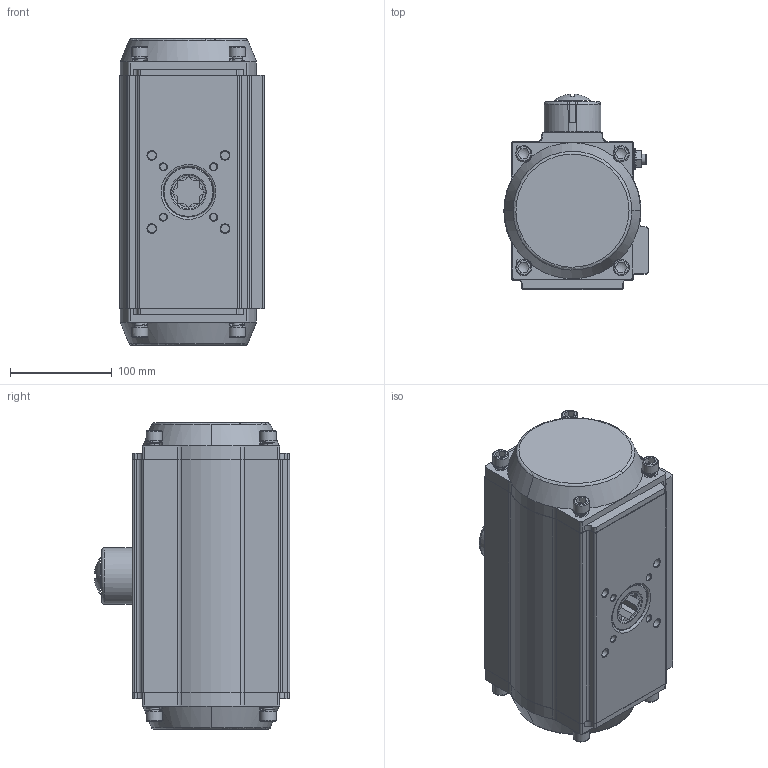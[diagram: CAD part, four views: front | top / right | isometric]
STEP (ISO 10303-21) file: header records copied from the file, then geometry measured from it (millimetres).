
FILE_DESCRIPTION(('STEP AP203'), '1');
FILE_NAME('3D_930-DA_SR-0308-22õ22', '', ('UNSPECIFIED'), ('UNSPECIFIED'), 'C3D Converter', 'C3D Toolkit', '');
FILE_SCHEMA(('CONFIG_CONTROL_DESIGN'));
Length unit declared in the file: millimetre
Assembly tree (44 placements, depth 3):
  (unnamed)
    (unnamed)
    (unnamed)
    (unnamed)
    (unnamed)
      (unnamed)
      (unnamed)
    (unnamed)
    (unnamed)
    (unnamed)  x2
    (unnamed)
    (unnamed)  x2
    (unnamed)
    (unnamed)
    (unnamed)
    (unnamed)
    (unnamed)
    (unnamed)
    (unnamed)
    (unnamed)
    (unnamed)
    (unnamed)
    (unnamed)
    (unnamed)  x8
    (unnamed)  x8
    (unnamed)
    (unnamed)
    (unnamed)
    (unnamed)
Bounding box: 142 x 192.47 x 302 mm (x, y, z)
Volume: 2278201.1 mm3; surface area: 514502.1 mm2
Topology: 43 solids, 43 shells, 1188 faces, 3015 edges, 1983 vertices
Faces by surface type: plane 480, cylinder 411, bspline 144, cone 100, torus 42, sphere 11
Full cylindrical faces by diameter (mm): 1.5 x2, 4.2 x8, 5 x1, 6 x1, 6.5 x1, 6.8 x4, 8.5 x12, 8.6 x2, 9 x2, 10 x12, 11 x8, 12 x2, 14.5 x2, 16 x8, 18 x1, 20 x2, 23 x2, 31 x2, 31.2 x1, 32 x1, 33 x12, 35 x9, 35.5 x1, 37 x1, 44.3 x1, 45 x3, 46 x2, 50 x4, 124 x2, 125 x1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
Entity records: 74247 total; most frequent: CARTESIAN_POINT 40358, ORIENTED_EDGE 5000, DIRECTION 4613, EDGE_CURVE 2500, AXIS2_PLACEMENT_3D 1849, VERTEX_POINT 1754, EDGE_LOOP 1312, FACE_BOUND 1052
